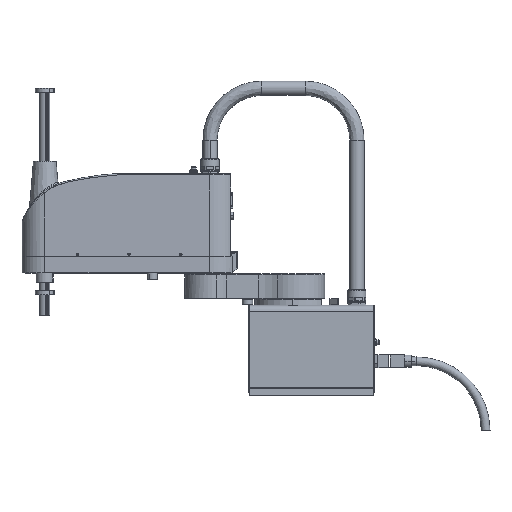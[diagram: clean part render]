
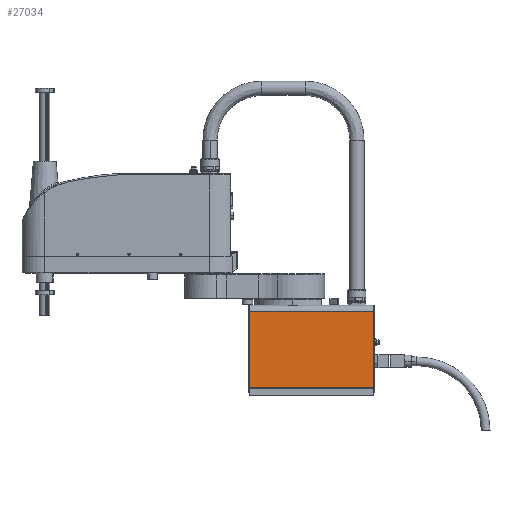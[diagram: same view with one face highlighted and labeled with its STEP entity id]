
A CAD part, top view. The second image highlights one B-rep face of the part: STEP entity #27034.
In plain terms, the highlighted planar face has unit normal (0, 0, 1).
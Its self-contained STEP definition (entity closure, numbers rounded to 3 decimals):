
#3821 = DIRECTION ( 'NONE',  ( 1., 0., 0. ) ) ;
#5697 = AXIS2_PLACEMENT_3D ( 'NONE', #50308, #20553, #55273 ) ;
#5979 = LINE ( 'NONE', #17285, #17667 ) ;
#6115 = VECTOR ( 'NONE', #43727, 1000. ) ;
#7219 = DIRECTION ( 'NONE',  ( 0., -1., 0. ) ) ;
#7487 = EDGE_CURVE ( 'NONE', #23899, #55742, #33030, .T. ) ;
#8225 = CARTESIAN_POINT ( 'NONE',  ( 195.348, 0.963, 105.048 ) ) ;
#11163 = FACE_OUTER_BOUND ( 'NONE', #17988, .T. ) ;
#12450 = CARTESIAN_POINT ( 'NONE',  ( -104.652, 0.963, 105.048 ) ) ;
#12454 = VERTEX_POINT ( 'NONE', #34501 ) ;
#13102 = ORIENTED_EDGE ( 'NONE', *, *, #41724, .F. ) ;
#13224 = EDGE_CURVE ( 'NONE', #12454, #55742, #44160, .T. ) ;
#17285 = CARTESIAN_POINT ( 'NONE',  ( -104.652, -184.037, 105.048 ) ) ;
#17553 = VERTEX_POINT ( 'NONE', #12450 ) ;
#17667 = VECTOR ( 'NONE', #7219, 1000. ) ;
#17678 = DIRECTION ( 'NONE',  ( 0., -1., 0. ) ) ;
#17988 = EDGE_LOOP ( 'NONE', ( #37590, #26947, #13102, #49004 ) ) ;
#18259 = CARTESIAN_POINT ( 'NONE',  ( 195.348, -182.037, 105.048 ) ) ;
#19191 = CARTESIAN_POINT ( 'NONE',  ( -365.275, -182.037, 105.048 ) ) ;
#20553 = DIRECTION ( 'NONE',  ( 0., 0., -1. ) ) ;
#23899 = VERTEX_POINT ( 'NONE', #8225 ) ;
#24309 = VECTOR ( 'NONE', #3821, 1000. ) ;
#26947 = ORIENTED_EDGE ( 'NONE', *, *, #7487, .F. ) ;
#27034 = ADVANCED_FACE ( 'NONE', ( #11163 ), #30391, .F. ) ;
#30391 = PLANE ( 'NONE',  #5697 ) ;
#32681 = EDGE_CURVE ( 'NONE', #17553, #12454, #5979, .T. ) ;
#33030 = LINE ( 'NONE', #47313, #54735 ) ;
#34501 = CARTESIAN_POINT ( 'NONE',  ( -104.652, -182.037, 105.048 ) ) ;
#37493 = LINE ( 'NONE', #63188, #24309 ) ;
#37590 = ORIENTED_EDGE ( 'NONE', *, *, #13224, .T. ) ;
#41724 = EDGE_CURVE ( 'NONE', #17553, #23899, #37493, .T. ) ;
#43727 = DIRECTION ( 'NONE',  ( 1., 0., 0. ) ) ;
#44160 = LINE ( 'NONE', #19191, #6115 ) ;
#47313 = CARTESIAN_POINT ( 'NONE',  ( 195.348, -184.037, 105.048 ) ) ;
#49004 = ORIENTED_EDGE ( 'NONE', *, *, #32681, .T. ) ;
#50308 = CARTESIAN_POINT ( 'NONE',  ( 195.348, 15.963, 105.048 ) ) ;
#54735 = VECTOR ( 'NONE', #17678, 1000. ) ;
#55273 = DIRECTION ( 'NONE',  ( 0., 1., 0. ) ) ;
#55742 = VERTEX_POINT ( 'NONE', #18259 ) ;
#63188 = CARTESIAN_POINT ( 'NONE',  ( 195.348, 0.963, 105.048 ) ) ;
